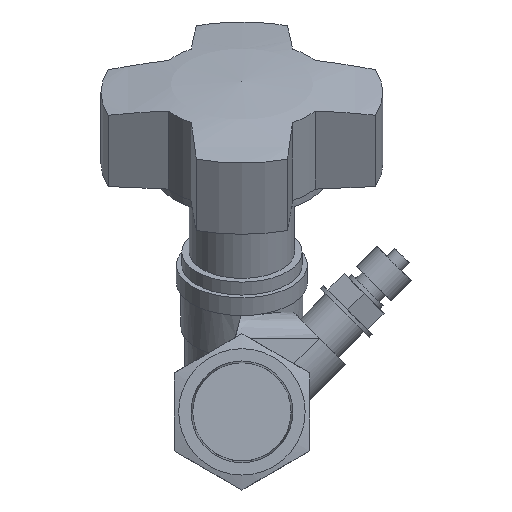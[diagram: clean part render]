
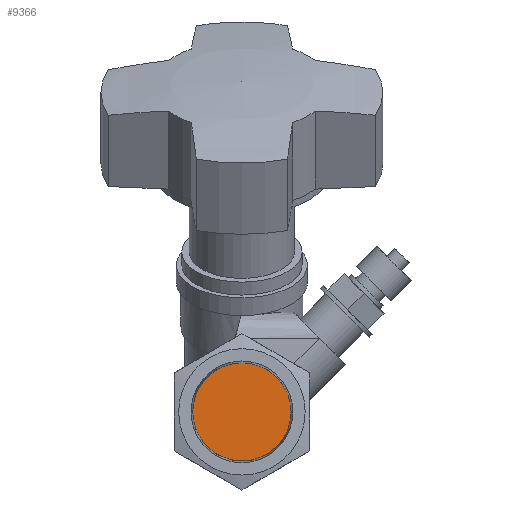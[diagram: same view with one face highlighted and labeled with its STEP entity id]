
A CAD part, left-side view. The second image highlights one B-rep face of the part: STEP entity #9366.
In plain terms, the highlighted planar face has unit normal (-1, 0, 0).
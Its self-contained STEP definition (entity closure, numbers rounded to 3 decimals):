
#9366 = ADVANCED_FACE('',(#9367),#9380,.T.);
#9367 = FACE_BOUND('',#9368,.T.);
#9368 = EDGE_LOOP('',(#9369));
#9369 = ORIENTED_EDGE('',*,*,#9370,.F.);
#9370 = EDGE_CURVE('',#9371,#9371,#9373,.T.);
#9371 = VERTEX_POINT('',#9372);
#9372 = CARTESIAN_POINT('',(11.211,-0.893,6.81));
#9373 = SURFACE_CURVE('',#9374,(#9379,#9395),.PCURVE_S1.);
#9374 = CIRCLE('',#9375,0.477);
#9375 = AXIS2_PLACEMENT_3D('',#9376,#9377,#9378);
#9376 = CARTESIAN_POINT('',(11.211,-1.37,6.81));
#9377 = DIRECTION('',(1.,0.,0.));
#9378 = DIRECTION('',(-0.,1.,0.));
#9379 = PCURVE('',#9380,#9385);
#9380 = PLANE('',#9381);
#9381 = AXIS2_PLACEMENT_3D('',#9382,#9383,#9384);
#9382 = CARTESIAN_POINT('',(11.211,-1.131,6.81));
#9383 = DIRECTION('',(-1.,-0.,-0.));
#9384 = DIRECTION('',(-0.,1.,-0.));
#9385 = DEFINITIONAL_REPRESENTATION('',(#9386),#9394);
#9386 = ( BOUNDED_CURVE() B_SPLINE_CURVE(2,(#9387,#9388,#9389,#9390,
#9391,#9392,#9393),.UNSPECIFIED.,.T.,.F.) B_SPLINE_CURVE_WITH_KNOTS((1,2
    ,2,2,2,1),(-2.094,0.,2.094,4.189,
6.283,8.378),.UNSPECIFIED.) CURVE() 
GEOMETRIC_REPRESENTATION_ITEM() RATIONAL_B_SPLINE_CURVE((1.,0.5,1.,0.5,
1.,0.5,1.)) REPRESENTATION_ITEM('') );
#9387 = CARTESIAN_POINT('',(0.239,0.));
#9388 = CARTESIAN_POINT('',(0.239,-0.827));
#9389 = CARTESIAN_POINT('',(-0.477,-0.413));
#9390 = CARTESIAN_POINT('',(-1.194,0.));
#9391 = CARTESIAN_POINT('',(-0.477,0.413));
#9392 = CARTESIAN_POINT('',(0.239,0.827));
#9393 = CARTESIAN_POINT('',(0.239,0.));
#9394 = ( GEOMETRIC_REPRESENTATION_CONTEXT(2) 
PARAMETRIC_REPRESENTATION_CONTEXT() REPRESENTATION_CONTEXT('2D SPACE',''
  ) );
#9395 = PCURVE('',#9396,#9401);
#9396 = CONICAL_SURFACE('',#9397,0.486,0.031);
#9397 = AXIS2_PLACEMENT_3D('',#9398,#9399,#9400);
#9398 = CARTESIAN_POINT('',(42.456,-1.37,6.81));
#9399 = DIRECTION('',(1.,0.,0.));
#9400 = DIRECTION('',(0.,-1.,0.));
#9401 = DEFINITIONAL_REPRESENTATION('',(#9402),#9406);
#9402 = LINE('',#9403,#9404);
#9403 = CARTESIAN_POINT('',(0.,-31.245));
#9404 = VECTOR('',#9405,1.);
#9405 = DIRECTION('',(1.,0.));
#9406 = ( GEOMETRIC_REPRESENTATION_CONTEXT(2) 
PARAMETRIC_REPRESENTATION_CONTEXT() REPRESENTATION_CONTEXT('2D SPACE',''
  ) );
